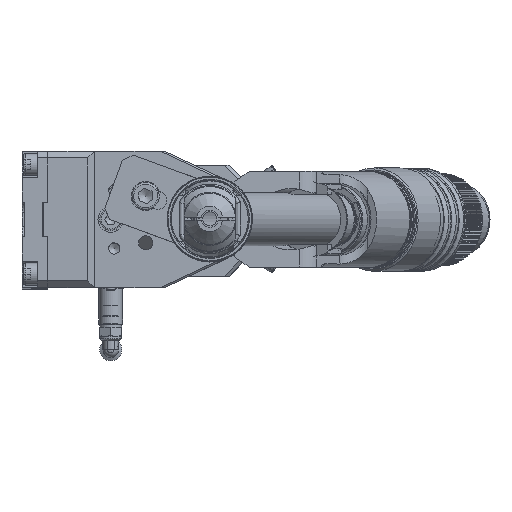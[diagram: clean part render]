
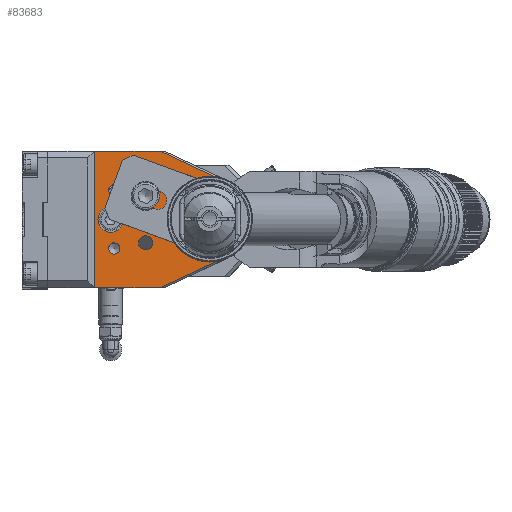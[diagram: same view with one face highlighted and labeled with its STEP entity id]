
A CAD part, top view. The second image highlights one B-rep face of the part: STEP entity #83683.
In plain terms, the highlighted planar face has unit normal (0, 0, 1).
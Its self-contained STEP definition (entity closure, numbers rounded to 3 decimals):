
#3912=FACE_BOUND('',#15008,.T.);
#3913=FACE_BOUND('',#15009,.T.);
#3914=FACE_BOUND('',#15010,.T.);
#3915=FACE_BOUND('',#15011,.T.);
#3916=FACE_BOUND('',#15012,.T.);
#3917=FACE_BOUND('',#15013,.T.);
#3918=FACE_BOUND('',#15014,.T.);
#5440=PLANE('',#89634);
#10221=FACE_OUTER_BOUND('',#15007,.T.);
#15007=EDGE_LOOP('',(#67672,#67673,#67674,#67675,#67676,#67677));
#15008=EDGE_LOOP('',(#67678,#67679));
#15009=EDGE_LOOP('',(#67680,#67681));
#15010=EDGE_LOOP('',(#67682,#67683));
#15011=EDGE_LOOP('',(#67684));
#15012=EDGE_LOOP('',(#67685));
#15013=EDGE_LOOP('',(#67686,#67687));
#15014=EDGE_LOOP('',(#67688));
#20398=LINE('',#288699,#26401);
#20399=LINE('',#288703,#26402);
#20400=LINE('',#288705,#26403);
#20401=LINE('',#288707,#26404);
#20402=LINE('',#288708,#26405);
#26401=VECTOR('',#104254,10.);
#26402=VECTOR('',#104257,10.);
#26403=VECTOR('',#104258,10.);
#26404=VECTOR('',#104259,10.);
#26405=VECTOR('',#104260,10.);
#30981=CIRCLE('',#89633,17.);
#30982=CIRCLE('',#89635,24.);
#30983=CIRCLE('',#89636,3.324);
#30984=CIRCLE('',#89637,3.324);
#30985=CIRCLE('',#89638,4.188);
#30986=CIRCLE('',#89639,4.188);
#30987=CIRCLE('',#89640,7.5);
#30988=CIRCLE('',#89641,7.5);
#30989=CIRCLE('',#89642,3.324);
#30990=CIRCLE('',#89643,3.324);
#30991=CIRCLE('',#89644,4.188);
#30992=CIRCLE('',#89645,4.188);
#37561=VERTEX_POINT('',#288693);
#37562=VERTEX_POINT('',#288697);
#37563=VERTEX_POINT('',#288698);
#37564=VERTEX_POINT('',#288700);
#37565=VERTEX_POINT('',#288702);
#37566=VERTEX_POINT('',#288704);
#37567=VERTEX_POINT('',#288706);
#37568=VERTEX_POINT('',#288709);
#37569=VERTEX_POINT('',#288710);
#37570=VERTEX_POINT('',#288713);
#37571=VERTEX_POINT('',#288714);
#37572=VERTEX_POINT('',#288717);
#37573=VERTEX_POINT('',#288718);
#37574=VERTEX_POINT('',#288721);
#37575=VERTEX_POINT('',#288723);
#37576=VERTEX_POINT('',#288725);
#37577=VERTEX_POINT('',#288726);
#48160=EDGE_CURVE('',#37561,#37561,#30981,.T.);
#48162=EDGE_CURVE('',#37562,#37563,#20398,.T.);
#48163=EDGE_CURVE('',#37564,#37562,#30982,.T.);
#48164=EDGE_CURVE('',#37565,#37564,#20399,.T.);
#48165=EDGE_CURVE('',#37566,#37565,#20400,.T.);
#48166=EDGE_CURVE('',#37566,#37567,#20401,.T.);
#48167=EDGE_CURVE('',#37563,#37567,#20402,.T.);
#48168=EDGE_CURVE('',#37568,#37569,#30983,.T.);
#48169=EDGE_CURVE('',#37569,#37568,#30984,.T.);
#48170=EDGE_CURVE('',#37570,#37571,#30985,.T.);
#48171=EDGE_CURVE('',#37571,#37570,#30986,.T.);
#48172=EDGE_CURVE('',#37572,#37573,#30987,.T.);
#48173=EDGE_CURVE('',#37573,#37572,#30988,.T.);
#48174=EDGE_CURVE('',#37574,#37574,#30989,.T.);
#48175=EDGE_CURVE('',#37575,#37575,#30990,.T.);
#48176=EDGE_CURVE('',#37576,#37577,#30991,.T.);
#48177=EDGE_CURVE('',#37577,#37576,#30992,.T.);
#67672=ORIENTED_EDGE('',*,*,#48162,.F.);
#67673=ORIENTED_EDGE('',*,*,#48163,.F.);
#67674=ORIENTED_EDGE('',*,*,#48164,.F.);
#67675=ORIENTED_EDGE('',*,*,#48165,.F.);
#67676=ORIENTED_EDGE('',*,*,#48166,.T.);
#67677=ORIENTED_EDGE('',*,*,#48167,.F.);
#67678=ORIENTED_EDGE('',*,*,#48168,.T.);
#67679=ORIENTED_EDGE('',*,*,#48169,.T.);
#67680=ORIENTED_EDGE('',*,*,#48170,.T.);
#67681=ORIENTED_EDGE('',*,*,#48171,.T.);
#67682=ORIENTED_EDGE('',*,*,#48172,.T.);
#67683=ORIENTED_EDGE('',*,*,#48173,.T.);
#67684=ORIENTED_EDGE('',*,*,#48174,.T.);
#67685=ORIENTED_EDGE('',*,*,#48175,.T.);
#67686=ORIENTED_EDGE('',*,*,#48176,.T.);
#67687=ORIENTED_EDGE('',*,*,#48177,.T.);
#67688=ORIENTED_EDGE('',*,*,#48160,.F.);
#83683=ADVANCED_FACE('',(#10221,#3912,#3913,#3914,#3915,#3916,#3917,#3918),
#5440,.F.);
#89633=AXIS2_PLACEMENT_3D('',#288694,#104249,#104250);
#89634=AXIS2_PLACEMENT_3D('',#288696,#104252,#104253);
#89635=AXIS2_PLACEMENT_3D('',#288701,#104255,#104256);
#89636=AXIS2_PLACEMENT_3D('',#288711,#104261,#104262);
#89637=AXIS2_PLACEMENT_3D('',#288712,#104263,#104264);
#89638=AXIS2_PLACEMENT_3D('',#288715,#104265,#104266);
#89639=AXIS2_PLACEMENT_3D('',#288716,#104267,#104268);
#89640=AXIS2_PLACEMENT_3D('',#288719,#104269,#104270);
#89641=AXIS2_PLACEMENT_3D('',#288720,#104271,#104272);
#89642=AXIS2_PLACEMENT_3D('',#288722,#104273,#104274);
#89643=AXIS2_PLACEMENT_3D('',#288724,#104275,#104276);
#89644=AXIS2_PLACEMENT_3D('',#288727,#104277,#104278);
#89645=AXIS2_PLACEMENT_3D('',#288728,#104279,#104280);
#104249=DIRECTION('center_axis',(0.,0.,
1.));
#104250=DIRECTION('ref_axis',(-1.,0.,0.));
#104252=DIRECTION('center_axis',(0.,0.,
-1.));
#104253=DIRECTION('ref_axis',(-1.,0.,0.));
#104254=DIRECTION('',(-0.906,-0.423,0.));
#104255=DIRECTION('center_axis',(0.,0.,
-1.));
#104256=DIRECTION('ref_axis',(0.423,-0.906,0.));
#104257=DIRECTION('',(0.906,-0.423,0.));
#104258=DIRECTION('',(1.,0.,0.));
#104259=DIRECTION('',(0.,-1.,0.));
#104260=DIRECTION('',(-1.,0.,0.));
#104261=DIRECTION('center_axis',(0.,0.,
-1.));
#104262=DIRECTION('ref_axis',(1.,0.,0.));
#104263=DIRECTION('center_axis',(0.,0.,
-1.));
#104264=DIRECTION('ref_axis',(1.,0.,0.));
#104265=DIRECTION('center_axis',(0.,0.,
-1.));
#104266=DIRECTION('ref_axis',(1.,0.,0.));
#104267=DIRECTION('center_axis',(0.,0.,
-1.));
#104268=DIRECTION('ref_axis',(1.,0.,0.));
#104269=DIRECTION('center_axis',(0.,0.,
-1.));
#104270=DIRECTION('ref_axis',(1.,0.,0.));
#104271=DIRECTION('center_axis',(0.,0.,
-1.));
#104272=DIRECTION('ref_axis',(1.,0.,0.));
#104273=DIRECTION('center_axis',(0.,0.,
-1.));
#104274=DIRECTION('ref_axis',(-1.,0.,0.));
#104275=DIRECTION('center_axis',(0.,0.,
-1.));
#104276=DIRECTION('ref_axis',(-1.,0.,0.));
#104277=DIRECTION('center_axis',(0.,0.,
-1.));
#104278=DIRECTION('ref_axis',(1.,0.,0.));
#104279=DIRECTION('center_axis',(0.,0.,
-1.));
#104280=DIRECTION('ref_axis',(1.,0.,0.));
#288693=CARTESIAN_POINT('',(130.,0.,500.));
#288694=CARTESIAN_POINT('Origin',(113.,0.,
500.));
#288696=CARTESIAN_POINT('Origin',(76.493,0.,
500.));
#288697=CARTESIAN_POINT('',(123.143,-21.751,500.));
#288698=CARTESIAN_POINT('',(84.009,-40.,500.));
#288699=CARTESIAN_POINT('',(89.554,-37.414,500.));
#288700=CARTESIAN_POINT('',(123.143,21.751,500.));
#288701=CARTESIAN_POINT('Origin',(113.,0.,
500.));
#288702=CARTESIAN_POINT('',(84.009,40.,500.));
#288703=CARTESIAN_POINT('',(108.149,28.743,500.));
#288704=CARTESIAN_POINT('',(45.5,40.,500.));
#288705=CARTESIAN_POINT('',(18.,40.,500.));
#288706=CARTESIAN_POINT('',(45.5,-40.,500.));
#288707=CARTESIAN_POINT('',(45.5,-20.,500.));
#288708=CARTESIAN_POINT('',(130.,-40.,500.));
#288709=CARTESIAN_POINT('',(84.324,0.,500.));
#288710=CARTESIAN_POINT('',(77.677,0.,500.));
#288711=CARTESIAN_POINT('Origin',(81.,0.,
500.));
#288712=CARTESIAN_POINT('Origin',(81.,0.,
500.));
#288713=CARTESIAN_POINT('',(79.6,-13.681,500.));
#288714=CARTESIAN_POINT('',(71.224,-13.681,500.));
#288715=CARTESIAN_POINT('Origin',(75.412,-13.681,500.));
#288716=CARTESIAN_POINT('Origin',(75.412,-13.681,500.));
#288717=CARTESIAN_POINT('',(62.5,0.,500.));
#288718=CARTESIAN_POINT('',(47.5,0.,500.));
#288719=CARTESIAN_POINT('Origin',(55.,0.,
500.));
#288720=CARTESIAN_POINT('Origin',(55.,0.,
500.));
#288721=CARTESIAN_POINT('',(60.324,17.,500.));
#288722=CARTESIAN_POINT('Origin',(57.,17.,500.));
#288723=CARTESIAN_POINT('',(60.324,-17.,500.));
#288724=CARTESIAN_POINT('Origin',(57.,-17.,500.));
#288725=CARTESIAN_POINT('',(79.6,13.681,500.));
#288726=CARTESIAN_POINT('',(71.224,13.681,500.));
#288727=CARTESIAN_POINT('Origin',(75.412,13.681,500.));
#288728=CARTESIAN_POINT('Origin',(75.412,13.681,500.));
